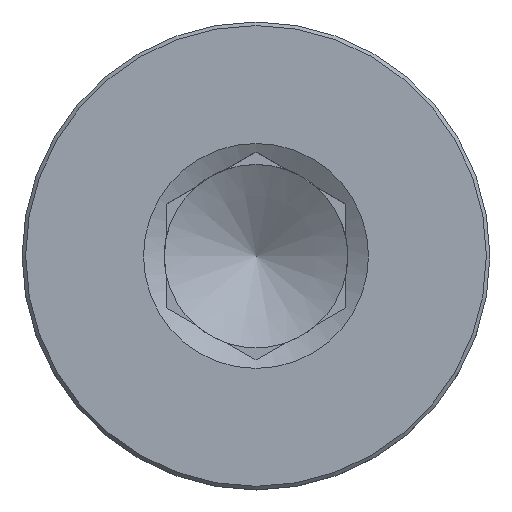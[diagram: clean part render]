
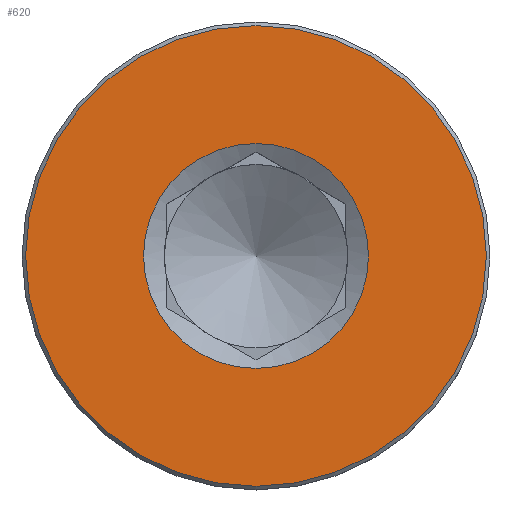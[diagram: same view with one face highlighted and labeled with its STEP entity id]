
A CAD part, top view. The second image highlights one B-rep face of the part: STEP entity #620.
In plain terms, the highlighted planar face has unit normal (0, 0, 1).
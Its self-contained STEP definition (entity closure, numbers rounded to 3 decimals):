
#620=ADVANCED_FACE('', (#630,#640), #650, .T.);
#1770=AXIS2_PLACEMENT_3D('Ax2Pl3d', #1780, #1790, #1800);
#3050=AXIS2_PLACEMENT_3D('Ax2Pl3d', #3060, #3070, #3080);
#3090=AXIS2_PLACEMENT_3D('Ax2Pl3d', #3100, #3110, #3120);
#1780=CARTESIAN_POINT('HicPkt', (117.448,0.,42.167));
#5780=CARTESIAN_POINT('', (117.448,-6.25,42.167));
#3060=CARTESIAN_POINT('HicPkt', (104.648,0.,42.167));
#3100=CARTESIAN_POINT('HicPkt', (117.448,0.,42.167));
#6440=CARTESIAN_POINT('', (117.448,12.8,42.167));
#6680=CIRCLE('Circle', #1770, 6.25);
#6870=CIRCLE('Circle', #3090, 12.8);
#1790=DIRECTION('Axis', (0.,0.,1.));
#1800=DIRECTION('RefDirection', (1.,0.,-0.));
#3070=DIRECTION('Axis', (0.,0.,1.));
#3080=DIRECTION('RefDirection', (1.,0.,-0.));
#3110=DIRECTION('Axis', (0.,0.,1.));
#3120=DIRECTION('RefDirection', (1.,0.,-0.));
#9740=EDGE_CURVE('', #9750, #9750, #6680, .T.);
#10950=EDGE_CURVE('', #10960, #10960, #6870, .T.);
#12440=EDGE_LOOP('Edge_loop', (#12450));
#12460=EDGE_LOOP('Edge_loop', (#12470));
#640=FACE_BOUND('', #12460, .T.);
#630=FACE_OUTER_BOUND('Face_outer_bound', #12440, .T.);
#12450=ORIENTED_EDGE('', *, *, #10950, .T.);
#12470=ORIENTED_EDGE('', *, *, #9740, .F.);
#650=PLANE('Plane', #3050);
#9750=VERTEX_POINT('', #5780);
#10960=VERTEX_POINT('', #6440);
